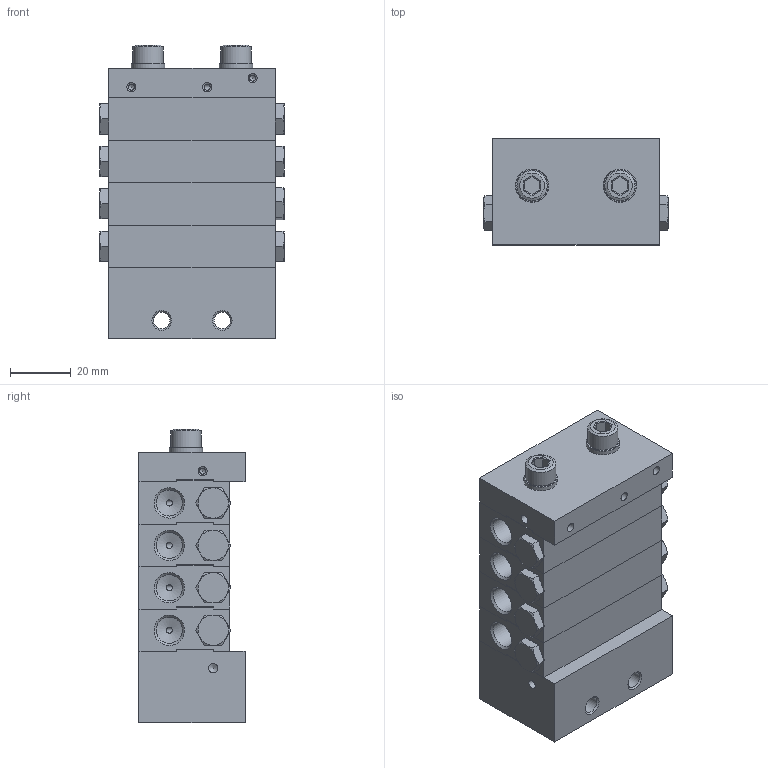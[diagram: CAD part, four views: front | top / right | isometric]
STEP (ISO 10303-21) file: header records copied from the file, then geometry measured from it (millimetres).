
FILE_DESCRIPTION (( 'STEP AP214' ), '1' );
FILE_NAME ('STW_XV_8_Auslässe.STEP', '2025-09-16T10:44:22', ( '' ), ( '' ), 'SwSTEP 2.0', 'SolidWorks 2022', '' );
FILE_SCHEMA (( 'AUTOMOTIVE_DESIGN' ));
Length unit declared in the file: millimetre
Products named in the file (10): Verschlussstopfen_1_8; STW_XV_Kolbenanschlag; U_Scheibe_6; STW_XV_ENGANG; STW_XV_END; M6X65_DIN_912; STW_XV_Verbindungsstopen; STW_XV_8_Auslässe; STW_XV_MITTEL_1; O_RING_3X1
Assembly tree (34 placements, depth 2):
  STW_XV_8_Auslässe
    STW_XV_ENGANG
    O_RING_3X1  x4
    STW_XV_MITTEL_1  x4
    STW_XV_END
    Verschlussstopfen_1_8  x8
    STW_XV_Kolbenanschlag  x8
    STW_XV_Verbindungsstopen  x4
    M6X65_DIN_912  x2
    U_Scheibe_6  x2
Bounding box: 61 x 35 x 96.8 mm (x, y, z)
Volume: 144502.9 mm3; surface area: 66628.3 mm2
Topology: 34 solids, 34 shells, 1337 faces, 3522 edges, 2260 vertices
Faces by surface type: plane 632, cylinder 346, cone 251, bspline 108
Full cylindrical faces by diameter (mm): 2 x113, 3 x11, 5 x47, 5.5 x2, 5.9 x2, 6 x2, 6.2 x10, 6.4 x2, 6.5 x8, 7 x8, 8 x8, 8.4 x4, 8.6 x20, 9 x9, 9.7 x8, 9.73 x4, 10 x10, 11 x2, 15 x1
Entity records: 29824 total; most frequent: CARTESIAN_POINT 17185, ORIENTED_EDGE 2526, DIRECTION 2065, EDGE_CURVE 1263, VERTEX_POINT 896, EDGE_LOOP 821, AXIS2_PLACEMENT_3D 697, VECTOR 671
